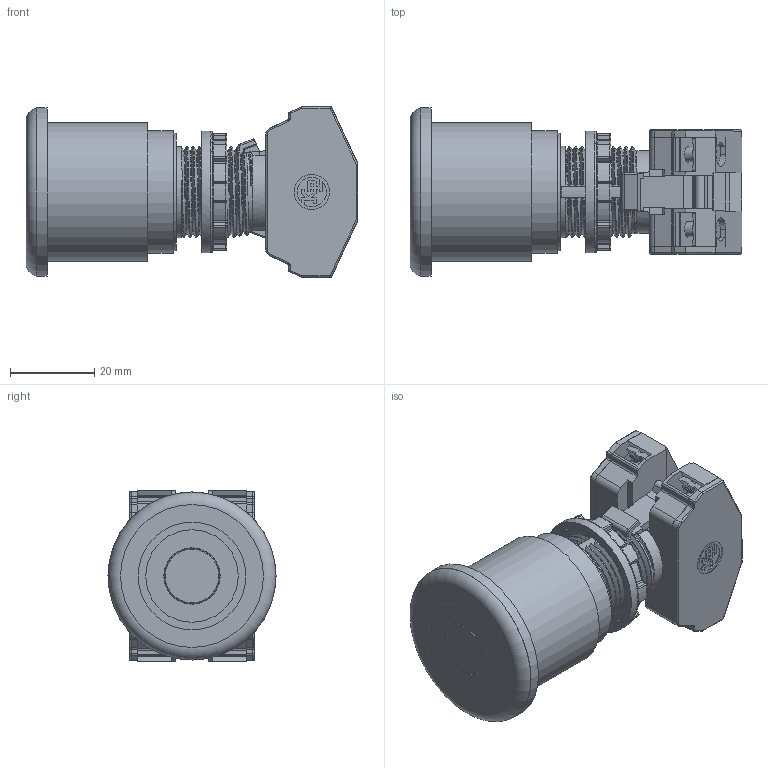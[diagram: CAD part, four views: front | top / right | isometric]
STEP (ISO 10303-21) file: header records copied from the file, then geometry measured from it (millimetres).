
FILE_DESCRIPTION(('Emergencia Compacto com Trava Empurrar/Puxar R22 1NA+1NF ou 2NF'),'2;1');
FILE_NAME('K:\Workfolder\Bibl\3DWeb\Serie\C9\kp_c9_c9ew_2Cont_step.stp','2011-04-02T14:52:04',('DIE'),('KAP'),'Autodesk Inventor 2011','Autodesk Inventor 2011','Direitos reservados. Proibido reproducao, cedencia ou revelacao de conteudo a terceiros, salvo com autorizacao. ');
FILE_SCHEMA(('AUTOMOTIVE_DESIGN { 1 0 10303 214 1 1 1 1 }'));
Length unit declared in the file: millimetre
Products named in the file (3): C9EW_2Cont; C9EW; C9AB_2Cont
Assembly tree (2 placements, depth 2):
  C9EW_2Cont
    C9EW
    C9AB_2Cont
Bounding box: 79 x 40 x 40.6 mm (x, y, z)
Volume: 54603.5 mm3; surface area: 22335.4 mm2
Topology: 3 solids, 25 shells, 1799 faces, 4828 edges, 3017 vertices
Faces by surface type: plane 966, cylinder 532, torus 130, bspline 86, sphere 57, cone 28
Full cylindrical faces by diameter (mm): 2.8 x4, 3 x4, 3.1 x4, 3.3 x4, 3.5 x4, 3.7 x4, 8.4 x1, 8.5 x1, 13.2 x1, 13.4 x1, 21.85 x1, 22 x1, 22.491 x3, 26 x1, 28 x1, 29 x1, 29.2 x1, 33 x1, 40 x1
Entity records: 61752 total; most frequent: CARTESIAN_POINT 15294, ORIENTED_EDGE 9390, DIRECTION 9271, EDGE_CURVE 4695, AXIS2_PLACEMENT_3D 3151, VERTEX_POINT 2993, VECTOR 2969, LINE 2969
